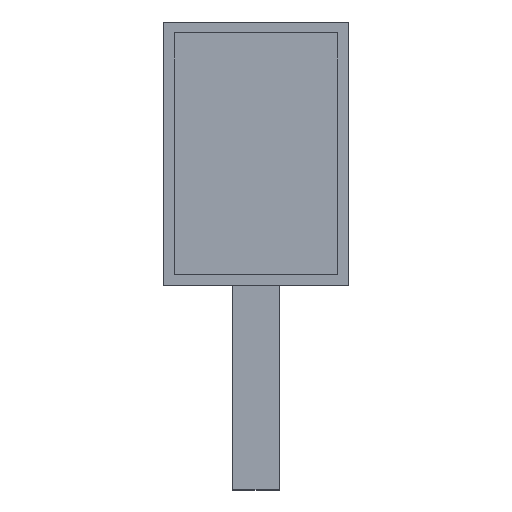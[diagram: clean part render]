
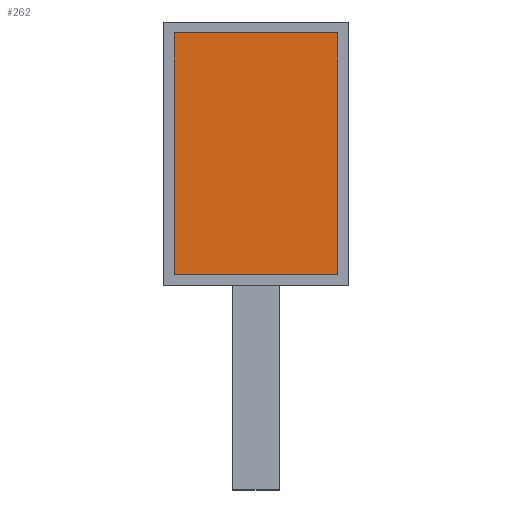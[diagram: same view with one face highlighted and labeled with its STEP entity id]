
A CAD part, top view. The second image highlights one B-rep face of the part: STEP entity #262.
In plain terms, the highlighted planar face has unit normal (0, 0, 1).
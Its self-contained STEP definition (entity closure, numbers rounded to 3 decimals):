
#58 = ORIENTED_EDGE ( 'NONE', *, *, #1110, .T. ) ;
#75 = VECTOR ( 'NONE', #890, 1000. ) ;
#83 = DIRECTION ( 'NONE',  ( 1., 0., 0. ) ) ;
#97 = CARTESIAN_POINT ( 'NONE',  ( -1050., 5860., 222.5 ) ) ;
#141 = CARTESIAN_POINT ( 'NONE',  ( 1050., 2760., 222.5 ) ) ;
#225 = LINE ( 'NONE', #456, #973 ) ;
#227 = EDGE_CURVE ( 'NONE', #843, #1052, #368, .T. ) ;
#228 = DIRECTION ( 'NONE',  ( 1., 0., 0. ) ) ;
#238 = DIRECTION ( 'NONE',  ( 0., 0., 1. ) ) ;
#262 = ADVANCED_FACE ( 'NONE', ( #1004 ), #898, .T. ) ;
#326 = ORIENTED_EDGE ( 'NONE', *, *, #227, .T. ) ;
#362 = ORIENTED_EDGE ( 'NONE', *, *, #819, .T. ) ;
#368 = LINE ( 'NONE', #790, #75 ) ;
#369 = EDGE_LOOP ( 'NONE', ( #326, #362, #1012, #58 ) ) ;
#456 = CARTESIAN_POINT ( 'NONE',  ( 1050., 5860., 222.5 ) ) ;
#463 = CARTESIAN_POINT ( 'NONE',  ( -1050., 2760., 222.5 ) ) ;
#495 = VECTOR ( 'NONE', #83, 1000. ) ;
#525 = VERTEX_POINT ( 'NONE', #575 ) ;
#561 = AXIS2_PLACEMENT_3D ( 'NONE', #1150, #238, #228 ) ;
#564 = DIRECTION ( 'NONE',  ( -1., 0., 0. ) ) ;
#575 = CARTESIAN_POINT ( 'NONE',  ( 1050., 5860., 222.5 ) ) ;
#614 = CARTESIAN_POINT ( 'NONE',  ( -1050., 2760., 222.5 ) ) ;
#637 = DIRECTION ( 'NONE',  ( 0., 1., 0. ) ) ;
#638 = VERTEX_POINT ( 'NONE', #141 ) ;
#790 = CARTESIAN_POINT ( 'NONE',  ( -1050., 5860., 222.5 ) ) ;
#819 = EDGE_CURVE ( 'NONE', #1052, #638, #988, .T. ) ;
#843 = VERTEX_POINT ( 'NONE', #97 ) ;
#890 = DIRECTION ( 'NONE',  ( 0., -1., 0. ) ) ;
#898 = PLANE ( 'NONE',  #561 ) ;
#936 = CARTESIAN_POINT ( 'NONE',  ( -1050., 5860., 222.5 ) ) ;
#959 = EDGE_CURVE ( 'NONE', #638, #525, #225, .T. ) ;
#973 = VECTOR ( 'NONE', #637, 1000. ) ;
#988 = LINE ( 'NONE', #614, #495 ) ;
#1004 = FACE_OUTER_BOUND ( 'NONE', #369, .T. ) ;
#1012 = ORIENTED_EDGE ( 'NONE', *, *, #959, .T. ) ;
#1015 = VECTOR ( 'NONE', #564, 1000. ) ;
#1052 = VERTEX_POINT ( 'NONE', #463 ) ;
#1078 = LINE ( 'NONE', #936, #1015 ) ;
#1110 = EDGE_CURVE ( 'NONE', #525, #843, #1078, .T. ) ;
#1150 = CARTESIAN_POINT ( 'NONE',  ( 0., 0., 222.5 ) ) ;
